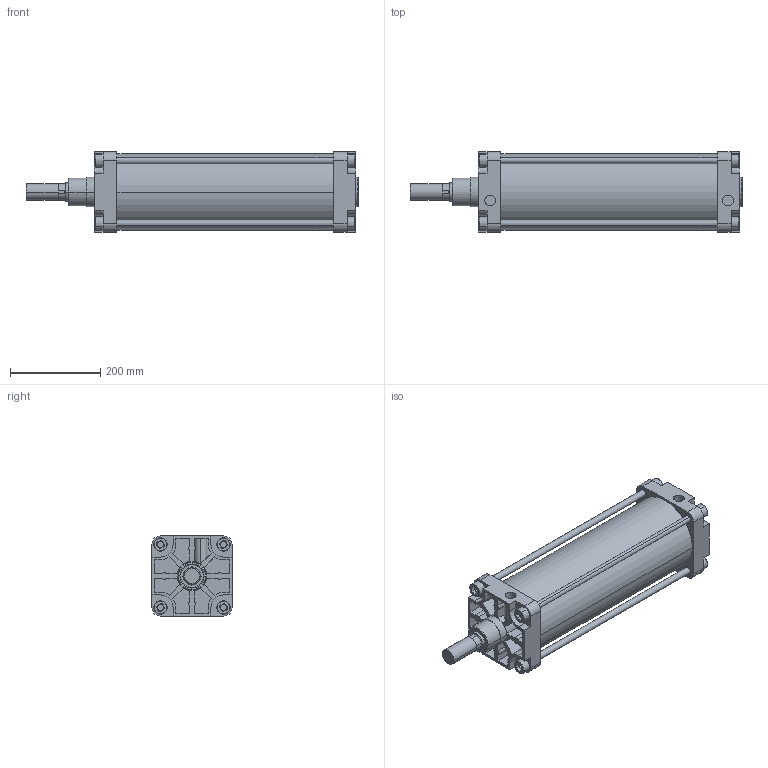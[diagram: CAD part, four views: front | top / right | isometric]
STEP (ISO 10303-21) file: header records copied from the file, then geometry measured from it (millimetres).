
FILE_DESCRIPTION(('CATIA V5 STEP Exchange'),'2;1');
FILE_NAME('D:\stp file for catalog\PNC\160\PNC 160-40-400-00.stp','2015-09-13T12:21:47+00:00',('none'),('none'),'Version 5-6 Release 2012','CATIA V5 STEP AP203','none');
FILE_SCHEMA(('CONFIG_CONTROL_DESIGN'));
Length unit declared in the file: millimetre
Products named in the file (1): PNC 160-40-400-00
Assembly tree (2 placements, depth 2):
  PNC 160-40-400-00
    #58
    #14957
Bounding box: 737 x 178 x 178 mm (x, y, z)
Volume: 6036638.9 mm3; surface area: 1114632.3 mm2
Topology: 6 solids, 6 shells, 583 faces, 1428 edges, 932 vertices
Faces by surface type: plane 349, cylinder 186, torus 26, extrusion 16, cone 6
Entity records: 15847 total; most frequent: CARTESIAN_POINT 3275, ORIENTED_EDGE 2856, DIRECTION 1940, EDGE_CURVE 1428, VERTEX_POINT 932, VECTOR 930, LINE 914, AXIS2_PLACEMENT_3D 715
